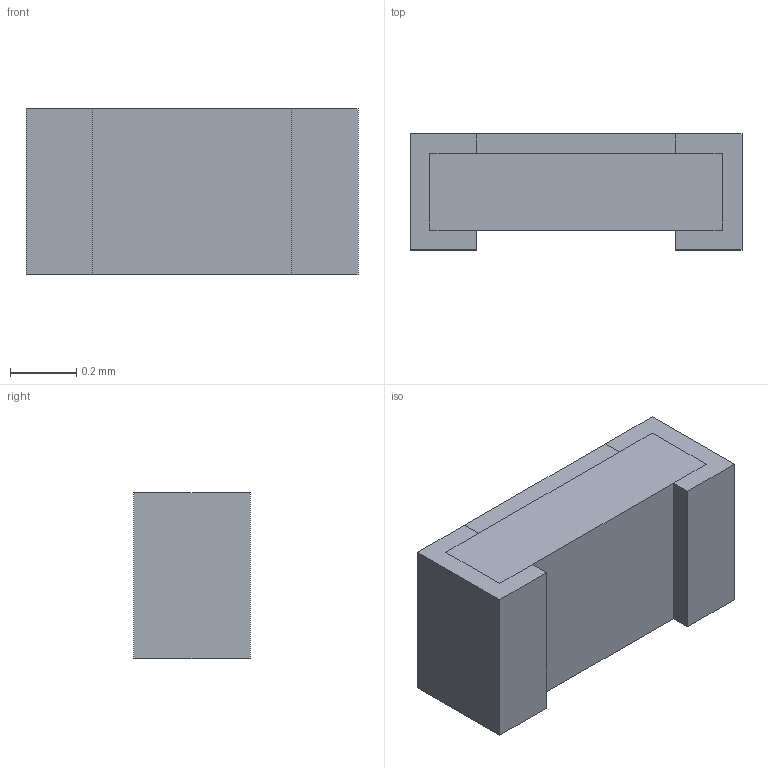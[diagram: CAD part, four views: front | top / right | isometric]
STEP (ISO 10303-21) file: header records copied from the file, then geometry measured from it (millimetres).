
FILE_DESCRIPTION(('FreeCAD Model'),'2;1');
FILE_NAME('Open CASCADE Shape Model','2022-02-08T17:22:36',('Author'),( ''),'Open CASCADE STEP processor 7.5','FreeCAD','Unknown');
FILE_SCHEMA(('AUTOMOTIVE_DESIGN { 1 0 10303 214 1 1 1 1 }'));
Length unit declared in the file: millimetre
Products named in the file (1): Pad002
Bounding box: 1 x 0.35 x 0.5 mm (x, y, z)
Volume: 0.2 mm3; surface area: 2 mm2
Topology: 1 solids, 1 shells, 18 faces, 48 edges, 32 vertices
Faces by surface type: plane 18
Entity records: 1320 total; most frequent: CARTESIAN_POINT 195, DIRECTION 182, LINE 144, VECTOR 144, ORIENTED_EDGE 96, PCURVE 96, DEFINITIONAL_REPRESENTATION 96, EDGE_CURVE 48
